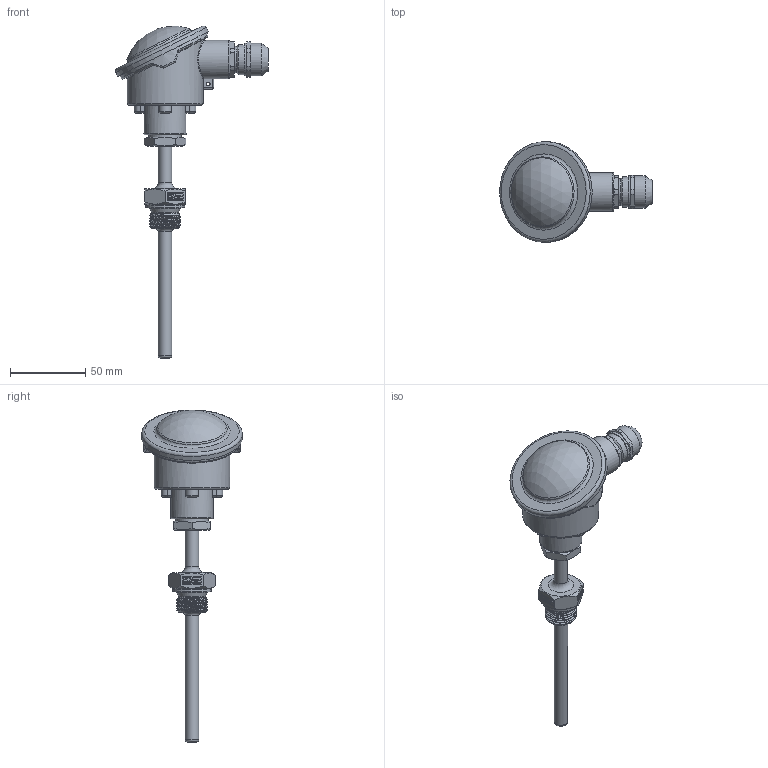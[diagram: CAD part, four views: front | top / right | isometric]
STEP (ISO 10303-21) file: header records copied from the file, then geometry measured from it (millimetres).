
FILE_DESCRIPTION(/* description */ (''),/* implementation_level */ '2;1');
FILE_NAME(/* name */ 'C:/Users/Admin/Desktop/MWT_200 v8.step',/* time_stamp */ '2022-04-15T13:31:21+02:00',/* author */ (''),/* organization */ (''),/* preprocessor_version */ 'ST-DEVELOPER v18.1',/* originating_system */ 'Autodesk Translation Framework v10.14.0.1471',/* authorisation */ '');
FILE_SCHEMA (('AUTOMOTIVE_DESIGN { 1 0 10303 214 3 1 1 }'));
Length unit declared in the file: millimetre
Products named in the file (1): MWT_200
Bounding box: 101.59 x 67 x 220.75 mm (x, y, z)
Volume: 80894.7 mm3; surface area: 45548.1 mm2
Topology: 3 solids, 3 shells, 607 faces, 1606 edges, 1054 vertices
Faces by surface type: plane 325, bspline 164, cylinder 66, cone 24, torus 23, sphere 5
Full cylindrical faces by diameter (mm): 2.5 x1, 6 x1, 7 x1, 9 x2, 13.2 x1, 15.5 x1, 17.2 x1, 17.5 x1, 18.526 x1, 18.631 x4, 19.85 x1, 20 x2, 20.813 x3, 21.5 x3, 22.526 x1, 23.85 x1, 25.5 x1, 26 x1, 28.2 x1, 47 x1, 50 x1, 50.5 x1, 64.5 x1, 67 x1
Entity records: 26012 total; most frequent: CARTESIAN_POINT 11992, ORIENTED_EDGE 3212, DIRECTION 2289, EDGE_CURVE 1606, VERTEX_POINT 1054, LINE 951, VECTOR 951, AXIS2_PLACEMENT_3D 669
